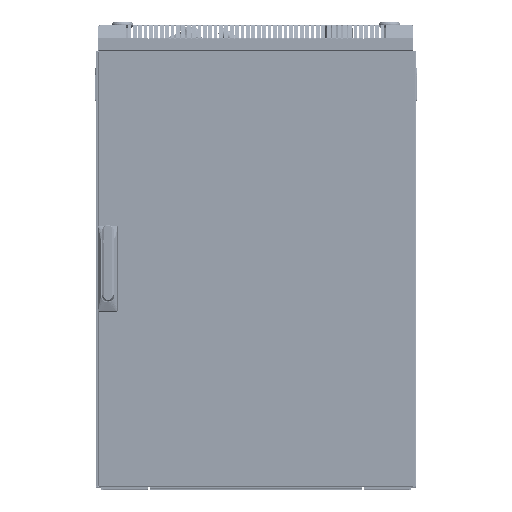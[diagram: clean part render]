
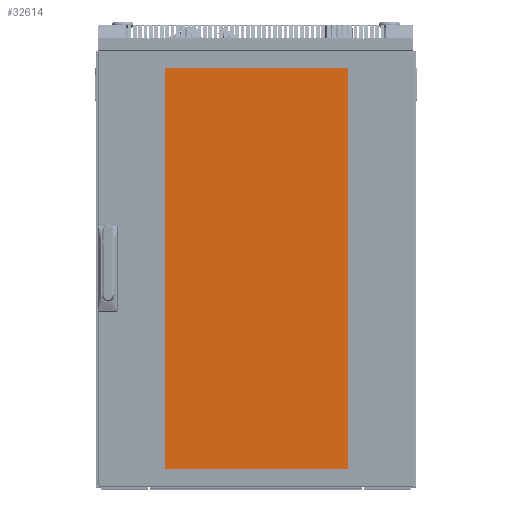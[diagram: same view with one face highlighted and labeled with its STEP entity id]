
A CAD part, top view. The second image highlights one B-rep face of the part: STEP entity #32614.
In plain terms, the highlighted planar face has unit normal (0, 0, 1) as drawn and (-1, 0, 0) by its records, which use the part's own axes.
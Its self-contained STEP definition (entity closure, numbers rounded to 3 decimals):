
#9427 = EDGE_CURVE ( 'NONE', #362048, #267098, #325089, .T. ) ;
#25212 = DIRECTION ( 'NONE',  ( 1., 0., 0. ) ) ;
#32614 = ADVANCED_FACE ( 'NONE', ( #251986 ), #427891, .F. ) ;
#33355 = AXIS2_PLACEMENT_3D ( 'NONE', #330647, #25212, #358711 ) ;
#44786 = LINE ( 'NONE', #200334, #276771 ) ;
#50059 = CARTESIAN_POINT ( 'NONE',  ( 0., -182., -383.65 ) ) ;
#61912 = EDGE_CURVE ( 'NONE', #267098, #358927, #44786, .T. ) ;
#64288 = VECTOR ( 'NONE', #198786, 1000. ) ;
#80283 = DIRECTION ( 'NONE',  ( 0., 1., 0. ) ) ;
#93985 = CARTESIAN_POINT ( 'NONE',  ( 0., 182., 383.65 ) ) ;
#121586 = ORIENTED_EDGE ( 'NONE', *, *, #61912, .F. ) ;
#123735 = VECTOR ( 'NONE', #80283, 1000. ) ;
#132792 = CARTESIAN_POINT ( 'NONE',  ( 0., -182., 383.65 ) ) ;
#145689 = VECTOR ( 'NONE', #393991, 1000. ) ;
#148826 = VERTEX_POINT ( 'NONE', #50059 ) ;
#198786 = DIRECTION ( 'NONE',  ( 0., 0., -1. ) ) ;
#200334 = CARTESIAN_POINT ( 'NONE',  ( 0., 0., 383.65 ) ) ;
#215998 = CARTESIAN_POINT ( 'NONE',  ( 0., 0., -383.65 ) ) ;
#251986 = FACE_OUTER_BOUND ( 'NONE', #284749, .T. ) ;
#267098 = VERTEX_POINT ( 'NONE', #93985 ) ;
#273614 = EDGE_CURVE ( 'NONE', #148826, #362048, #345595, .T. ) ;
#276771 = VECTOR ( 'NONE', #437767, 1000. ) ;
#284749 = EDGE_LOOP ( 'NONE', ( #425432, #353494, #366237, #121586 ) ) ;
#287476 = CARTESIAN_POINT ( 'NONE',  ( 0., 182., -383.65 ) ) ;
#325089 = LINE ( 'NONE', #362933, #145689 ) ;
#327908 = EDGE_CURVE ( 'NONE', #358927, #148826, #333612, .T. ) ;
#330647 = CARTESIAN_POINT ( 'NONE',  ( 0., 0., 0. ) ) ;
#333612 = LINE ( 'NONE', #365613, #64288 ) ;
#345595 = LINE ( 'NONE', #215998, #123735 ) ;
#353494 = ORIENTED_EDGE ( 'NONE', *, *, #273614, .F. ) ;
#358711 = DIRECTION ( 'NONE',  ( 0., 0., -1. ) ) ;
#358927 = VERTEX_POINT ( 'NONE', #132792 ) ;
#362048 = VERTEX_POINT ( 'NONE', #287476 ) ;
#362933 = CARTESIAN_POINT ( 'NONE',  ( 0., 182., 0. ) ) ;
#365613 = CARTESIAN_POINT ( 'NONE',  ( 0., -182., 0. ) ) ;
#366237 = ORIENTED_EDGE ( 'NONE', *, *, #327908, .F. ) ;
#393991 = DIRECTION ( 'NONE',  ( 0., 0., 1. ) ) ;
#425432 = ORIENTED_EDGE ( 'NONE', *, *, #9427, .F. ) ;
#427891 = PLANE ( 'NONE',  #33355 ) ;
#437767 = DIRECTION ( 'NONE',  ( 0., -1., 0. ) ) ;
